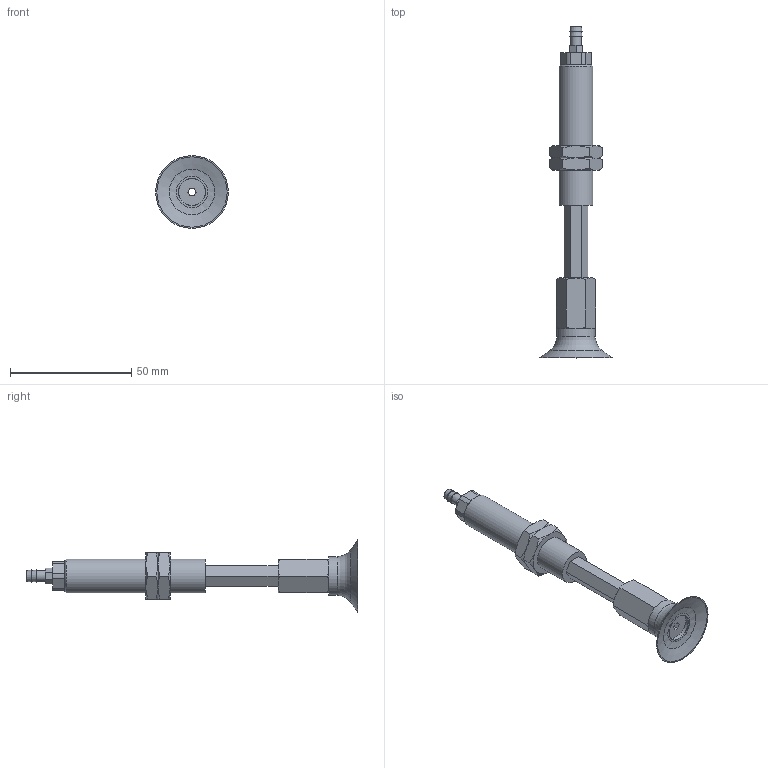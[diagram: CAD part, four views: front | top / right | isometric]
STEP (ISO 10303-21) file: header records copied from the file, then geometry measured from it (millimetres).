
FILE_DESCRIPTION(('STEP AP203'),'1');
FILE_NAME('-T.stp','2025-08-27T03:25:01',(' '),(' '),'Spatial InterOp 3D',' ',' ');
FILE_SCHEMA(('CONFIG_CONTROL_DESIGN'));
Length unit declared in the file: millimetre
Products named in the file (8): BNABPFTH-30-30-※-T; ADAPTER; NAPFTH-30-30-MBODY; TN-PF-30-M6-NAPF; Nut-30-30-h; NAPFTH-30-30-FBODY; BPFG-30-※; T
Assembly tree (8 placements, depth 2):
  BNABPFTH-30-30-※-T
    ADAPTER
    NAPFTH-30-30-MBODY
    TN-PF-30-M6-NAPF
    Nut-30-30-h  x2
    NAPFTH-30-30-FBODY
    BPFG-30-※
    T
Bounding box: 30 x 137 x 30 mm (x, y, z)
Volume: 18703.4 mm3; surface area: 14749.6 mm2
Topology: 8 solids, 8 shells, 157 faces, 337 edges, 206 vertices
Faces by surface type: plane 80, cone 49, cylinder 22, torus 5, bspline 1
Full cylindrical faces by diameter (mm): 3 x4, 4.134 x1, 4.3 x1, 4.917 x1, 5 x1, 6 x2, 11 x2, 12.917 x2, 14 x1, 16 x1
Entity records: 4099 total; most frequent: CARTESIAN_POINT 934, DIRECTION 580, ORIENTED_EDGE 506, EDGE_CURVE 253, AXIS2_PLACEMENT_3D 233, EDGE_LOOP 190, VERTEX_POINT 175, FACE_OUTER_BOUND 155
